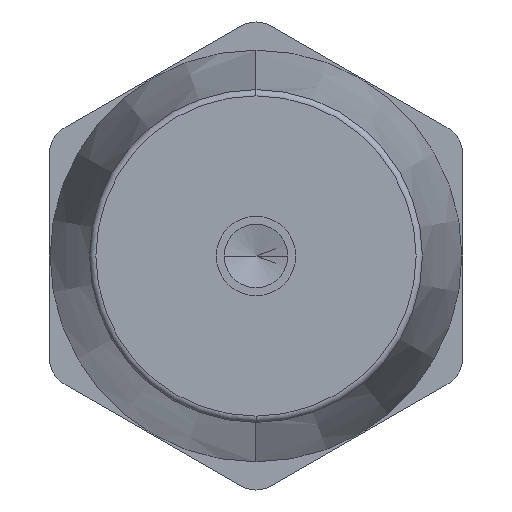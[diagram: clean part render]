
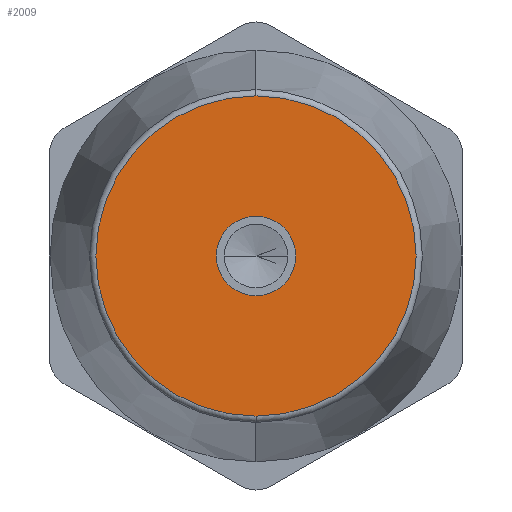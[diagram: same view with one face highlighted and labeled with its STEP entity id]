
A CAD part, front view. The second image highlights one B-rep face of the part: STEP entity #2009.
In plain terms, the highlighted planar face has unit normal (0, -1, 0).
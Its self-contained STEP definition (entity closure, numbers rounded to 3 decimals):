
#119 = DIRECTION ( 'NONE',  ( -1., 0., 0. ) ) ;
#224 = CIRCLE ( 'NONE', #2126, 6.25 ) ;
#288 = DIRECTION ( 'NONE',  ( 0., 0., 1. ) ) ;
#360 = EDGE_CURVE ( 'NONE', #2933, #1395, #2843, .T. ) ;
#433 = CARTESIAN_POINT ( 'NONE',  ( -6.25, 0., 0. ) ) ;
#557 = ORIENTED_EDGE ( 'NONE', *, *, #788, .T. ) ;
#576 = VERTEX_POINT ( 'NONE', #1006 ) ;
#788 = EDGE_CURVE ( 'NONE', #2423, #576, #2004, .T. ) ;
#1006 = CARTESIAN_POINT ( 'NONE',  ( 0., 0., 25.146 ) ) ;
#1026 = CARTESIAN_POINT ( 'NONE',  ( 0., 0., 0. ) ) ;
#1047 = ORIENTED_EDGE ( 'NONE', *, *, #360, .T. ) ;
#1090 = DIRECTION ( 'NONE',  ( -1., 0., 0. ) ) ;
#1094 = CARTESIAN_POINT ( 'NONE',  ( 6.25, 0., 0. ) ) ;
#1131 = CARTESIAN_POINT ( 'NONE',  ( 0., 0., 0. ) ) ;
#1395 = VERTEX_POINT ( 'NONE', #433 ) ;
#1428 = CIRCLE ( 'NONE', #1574, 25.146 ) ;
#1475 = ORIENTED_EDGE ( 'NONE', *, *, #2880, .T. ) ;
#1574 = AXIS2_PLACEMENT_3D ( 'NONE', #1682, #1651, #2635 ) ;
#1593 = DIRECTION ( 'NONE',  ( 0., 1., 0. ) ) ;
#1640 = CARTESIAN_POINT ( 'NONE',  ( 0., 0., -25.146 ) ) ;
#1651 = DIRECTION ( 'NONE',  ( 0., -1., 0. ) ) ;
#1682 = CARTESIAN_POINT ( 'NONE',  ( 0., 0., 0. ) ) ;
#1842 = EDGE_LOOP ( 'NONE', ( #2335, #557 ) ) ;
#1877 = AXIS2_PLACEMENT_3D ( 'NONE', #2905, #2647, #288 ) ;
#1955 = AXIS2_PLACEMENT_3D ( 'NONE', #1026, #1593, #1090 ) ;
#2004 = CIRCLE ( 'NONE', #2207, 25.146 ) ;
#2009 = ADVANCED_FACE ( 'NONE', ( #3068, #2803 ), #2789, .F. ) ;
#2075 = DIRECTION ( 'NONE',  ( 0., 1., 0. ) ) ;
#2126 = AXIS2_PLACEMENT_3D ( 'NONE', #1131, #2075, #119 ) ;
#2207 = AXIS2_PLACEMENT_3D ( 'NONE', #2767, #3049, #2568 ) ;
#2335 = ORIENTED_EDGE ( 'NONE', *, *, #2655, .T. ) ;
#2423 = VERTEX_POINT ( 'NONE', #1640 ) ;
#2568 = DIRECTION ( 'NONE',  ( 0., 0., 1. ) ) ;
#2635 = DIRECTION ( 'NONE',  ( 0., 0., 1. ) ) ;
#2647 = DIRECTION ( 'NONE',  ( 0., 1., 0. ) ) ;
#2655 = EDGE_CURVE ( 'NONE', #576, #2423, #1428, .T. ) ;
#2714 = EDGE_LOOP ( 'NONE', ( #1475, #1047 ) ) ;
#2767 = CARTESIAN_POINT ( 'NONE',  ( 0., 0., 0. ) ) ;
#2789 = PLANE ( 'NONE',  #1877 ) ;
#2803 = FACE_OUTER_BOUND ( 'NONE', #1842, .T. ) ;
#2843 = CIRCLE ( 'NONE', #1955, 6.25 ) ;
#2880 = EDGE_CURVE ( 'NONE', #1395, #2933, #224, .T. ) ;
#2905 = CARTESIAN_POINT ( 'NONE',  ( 32.5, 0., -18.764 ) ) ;
#2933 = VERTEX_POINT ( 'NONE', #1094 ) ;
#3049 = DIRECTION ( 'NONE',  ( 0., -1., 0. ) ) ;
#3068 = FACE_BOUND ( 'NONE', #2714, .T. ) ;
